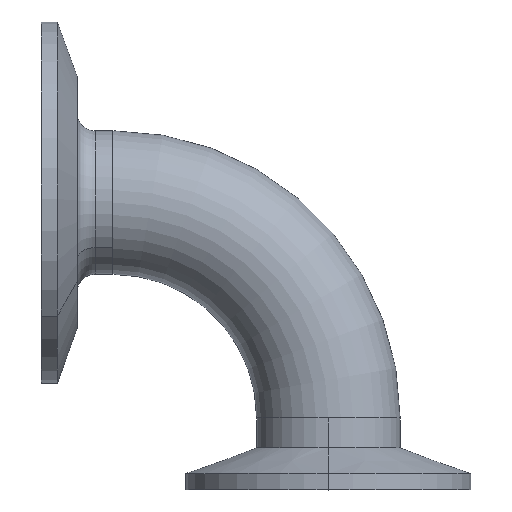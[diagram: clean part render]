
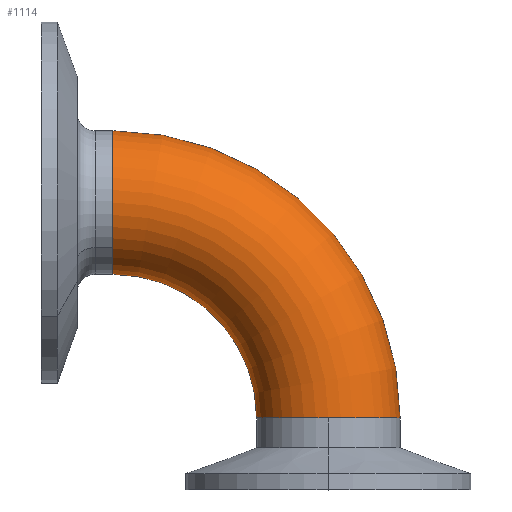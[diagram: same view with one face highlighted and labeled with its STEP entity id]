
A CAD part, top view. The second image highlights one B-rep face of the part: STEP entity #1114.
In plain terms, the highlighted toroidal (fillet/blend) face has major radius 38.1 mm and minor radius 12.7 mm.
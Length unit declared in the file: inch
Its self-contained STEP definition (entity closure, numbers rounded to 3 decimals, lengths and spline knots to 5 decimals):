
#14 = VERTEX_POINT ( 'NONE', #1170 ) ;
#15 = AXIS2_PLACEMENT_3D ( 'NONE', #1609, #837, #1731 ) ;
#102 = DIRECTION ( 'NONE',  ( 0., 1., 0. ) ) ;
#134 = DIRECTION ( 'NONE',  ( 0., 0., -1. ) ) ;
#167 = EDGE_CURVE ( 'NONE', #927, #1708, #643, .T. ) ;
#215 = DIRECTION ( 'NONE',  ( 0., 0., 1. ) ) ;
#273 = FACE_OUTER_BOUND ( 'NONE', #940, .T. ) ;
#290 = CARTESIAN_POINT ( 'NONE',  ( 0., 0., 0. ) ) ;
#325 = TOROIDAL_SURFACE ( 'NONE', #983, 1.5, 0.5 ) ;
#583 = ORIENTED_EDGE ( 'NONE', *, *, #1557, .T. ) ;
#600 = EDGE_CURVE ( 'NONE', #829, #14, #1256, .T. ) ;
#637 = AXIS2_PLACEMENT_3D ( 'NONE', #1534, #1589, #1568 ) ;
#643 = CIRCLE ( 'NONE', #637, 0.5 ) ;
#694 = EDGE_CURVE ( 'NONE', #1708, #14, #1217, .T. ) ;
#700 = CARTESIAN_POINT ( 'NONE',  ( 0., 1., 0. ) ) ;
#740 = CARTESIAN_POINT ( 'NONE',  ( 1.5, 0., 0. ) ) ;
#829 = VERTEX_POINT ( 'NONE', #889 ) ;
#837 = DIRECTION ( 'NONE',  ( 0., 0., -1. ) ) ;
#873 = ORIENTED_EDGE ( 'NONE', *, *, #600, .T. ) ;
#889 = CARTESIAN_POINT ( 'NONE',  ( 1., 0., 0. ) ) ;
#927 = VERTEX_POINT ( 'NONE', #700 ) ;
#940 = EDGE_LOOP ( 'NONE', ( #1339, #1014, #583, #873 ) ) ;
#983 = AXIS2_PLACEMENT_3D ( 'NONE', #290, #134, #1430 ) ;
#1014 = ORIENTED_EDGE ( 'NONE', *, *, #167, .F. ) ;
#1033 = CIRCLE ( 'NONE', #15, 1. ) ;
#1114 = ADVANCED_FACE ( 'NONE', ( #273 ), #325, .T. ) ;
#1124 = AXIS2_PLACEMENT_3D ( 'NONE', #740, #102, #215 ) ;
#1170 = CARTESIAN_POINT ( 'NONE',  ( 2., 0., 0. ) ) ;
#1217 = CIRCLE ( 'NONE', #1720, 2. ) ;
#1256 = CIRCLE ( 'NONE', #1124, 0.5 ) ;
#1339 = ORIENTED_EDGE ( 'NONE', *, *, #694, .F. ) ;
#1430 = DIRECTION ( 'NONE',  ( -1., 0., 0. ) ) ;
#1436 = DIRECTION ( 'NONE',  ( -1., 0., 0. ) ) ;
#1446 = DIRECTION ( 'NONE',  ( 0., 0., -1. ) ) ;
#1498 = CARTESIAN_POINT ( 'NONE',  ( 0., 0., 0. ) ) ;
#1534 = CARTESIAN_POINT ( 'NONE',  ( 0., 1.5, 0. ) ) ;
#1557 = EDGE_CURVE ( 'NONE', #927, #829, #1033, .T. ) ;
#1568 = DIRECTION ( 'NONE',  ( 0., 0., 1. ) ) ;
#1589 = DIRECTION ( 'NONE',  ( -1., 0., 0. ) ) ;
#1609 = CARTESIAN_POINT ( 'NONE',  ( 0., 0., 0. ) ) ;
#1620 = CARTESIAN_POINT ( 'NONE',  ( 0., 2., 0. ) ) ;
#1708 = VERTEX_POINT ( 'NONE', #1620 ) ;
#1720 = AXIS2_PLACEMENT_3D ( 'NONE', #1498, #1446, #1436 ) ;
#1731 = DIRECTION ( 'NONE',  ( -1., 0., 0. ) ) ;
